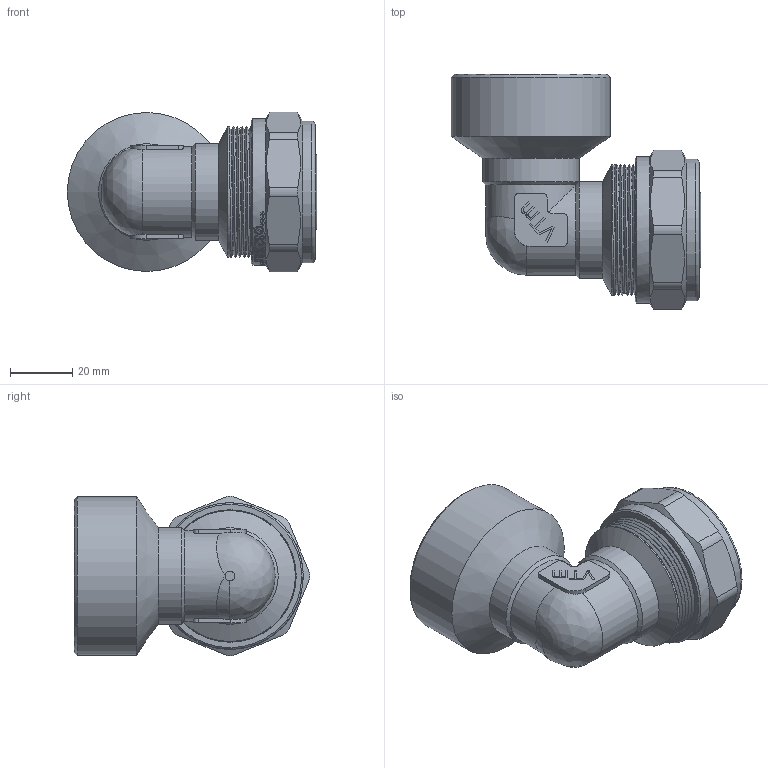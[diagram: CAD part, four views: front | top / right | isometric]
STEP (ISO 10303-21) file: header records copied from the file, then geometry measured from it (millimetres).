
FILE_DESCRIPTION(/* description */ (''),/* implementation_level */ '2;1');
FILE_NAME(/* name */ 'F:\Артём\00000\Работа удаленка\Обжимные фитинги\VTm.352.N.003207.stp',/* time_stamp */ '2020-08-06T13:22:39+03:00',/* author */ ('almis'),/* organization */ (''),/* preprocessor_version */ 'ST-DEVELOPER v18',/* originating_system */ 'Autodesk Inventor 2020',/* authorisation */ '');
FILE_SCHEMA (('AUTOMOTIVE_DESIGN { 1 0 10303 214 3 1 1 }'));
Length unit declared in the file: millimetre
Products named in the file (1): VTm.301.N.003206
Bounding box: 80 x 75.65 x 51.3 mm (x, y, z)
Volume: 65035.9 mm3; surface area: 38008.4 mm2
Topology: 1 solids, 1 shells, 797 faces, 2252 edges, 1510 vertices
Faces by surface type: bspline 398, plane 242, cylinder 111, torus 24, cone 21, sphere 1
Full cylindrical faces by diameter (mm): 20 x1, 23.4 x2, 24.5 x1, 25.75 x5, 29 x2, 30.538 x4, 31 x2, 31.683 x5, 32.2 x1, 32.7 x1, 35.5 x1, 39 x5, 40.38 x6, 40.5 x1, 42 x2, 43.6 x6, 45.5 x1, 51 x1
Entity records: 34957 total; most frequent: CARTESIAN_POINT 16904, ORIENTED_EDGE 4502, DIRECTION 2464, EDGE_CURVE 2251, VERTEX_POINT 1510, LINE 1012, VECTOR 1012, B_SPLINE_CURVE_WITH_KNOTS 897
